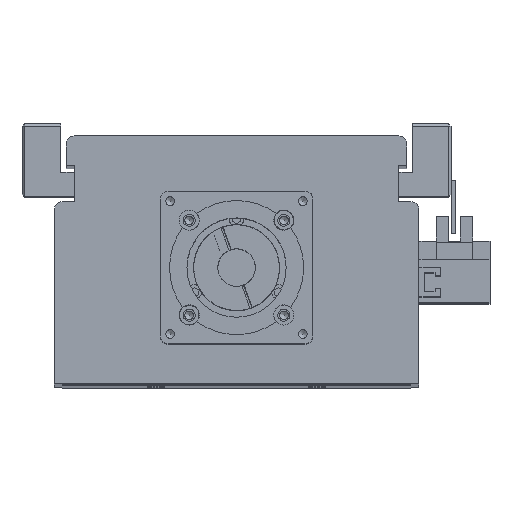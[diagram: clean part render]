
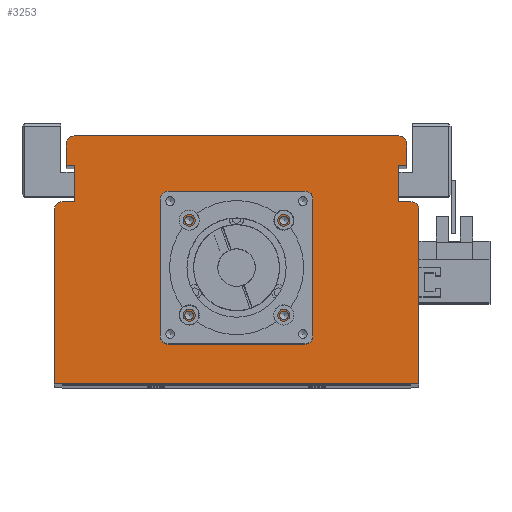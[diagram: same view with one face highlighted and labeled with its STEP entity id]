
A CAD part, top view. The second image highlights one B-rep face of the part: STEP entity #3253.
In plain terms, the highlighted planar face has unit normal (0, 0, 1).
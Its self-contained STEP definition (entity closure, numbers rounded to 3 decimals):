
#1811=CARTESIAN_POINT('',(19.321,61.5,645.0));
#1812=VERTEX_POINT('',#1811);
#1813=CARTESIAN_POINT('',(17.7,61.5,645.0));
#1814=DIRECTION('',(0.0,0.0,-1.0));
#1815=DIRECTION('',(1.0,0.0,0.0));
#1816=AXIS2_PLACEMENT_3D('',#1813,#1814,#1815);
#1817=CIRCLE('',#1816,1.621);
#1818=EDGE_CURVE('',#1812,#1812,#1817,.T.);
#1890=CARTESIAN_POINT('',(19.321,26.1,645.0));
#1891=VERTEX_POINT('',#1890);
#1892=CARTESIAN_POINT('',(17.7,26.1,645.0));
#1893=DIRECTION('',(0.0,0.0,-1.0));
#1894=DIRECTION('',(1.0,0.0,0.0));
#1895=AXIS2_PLACEMENT_3D('',#1892,#1893,#1894);
#1896=CIRCLE('',#1895,1.621);
#1897=EDGE_CURVE('',#1891,#1891,#1896,.T.);
#1969=CARTESIAN_POINT('',(-16.079,26.1,645.0));
#1970=VERTEX_POINT('',#1969);
#1971=CARTESIAN_POINT('',(-17.7,26.1,645.0));
#1972=DIRECTION('',(0.0,0.0,-1.0));
#1973=DIRECTION('',(1.0,0.0,0.0));
#1974=AXIS2_PLACEMENT_3D('',#1971,#1972,#1973);
#1975=CIRCLE('',#1974,1.621);
#1976=EDGE_CURVE('',#1970,#1970,#1975,.T.);
#2048=CARTESIAN_POINT('',(-16.079,61.5,645.0));
#2049=VERTEX_POINT('',#2048);
#2050=CARTESIAN_POINT('',(-17.7,61.5,645.0));
#2051=DIRECTION('',(0.0,0.0,-1.0));
#2052=DIRECTION('',(1.0,0.0,0.0));
#2053=AXIS2_PLACEMENT_3D('',#2050,#2051,#2052);
#2054=CIRCLE('',#2053,1.621);
#2055=EDGE_CURVE('',#2049,#2049,#2054,.T.);
#2089=CARTESIAN_POINT('',(26.5,43.8,645.0));
#2090=VERTEX_POINT('',#2089);
#2091=CARTESIAN_POINT('',(24.5,43.8,645.0));
#2092=DIRECTION('',(0.0,0.0,-1.0));
#2093=DIRECTION('',(1.0,0.0,0.0));
#2094=AXIS2_PLACEMENT_3D('',#2091,#2092,#2093);
#2095=CIRCLE('',#2094,2.0);
#2096=EDGE_CURVE('',#2090,#2090,#2095,.T.);
#2138=CARTESIAN_POINT('',(-22.5,43.8,645.0));
#2139=VERTEX_POINT('',#2138);
#2140=CARTESIAN_POINT('',(-24.5,43.8,645.0));
#2141=DIRECTION('',(0.0,0.0,-1.0));
#2142=DIRECTION('',(1.0,0.0,0.0));
#2143=AXIS2_PLACEMENT_3D('',#2140,#2141,#2142);
#2144=CIRCLE('',#2143,2.0);
#2145=EDGE_CURVE('',#2139,#2139,#2144,.T.);
#3069=CARTESIAN_POINT('',(21.05,43.8,645.0));
#3070=VERTEX_POINT('',#3069);
#3071=CARTESIAN_POINT('',(0.0,43.8,645.0));
#3072=DIRECTION('',(0.0,0.0,-1.0));
#3073=DIRECTION('',(-1.0,0.0,0.0));
#3074=AXIS2_PLACEMENT_3D('',#3071,#3072,#3073);
#3075=CIRCLE('',#3074,21.05);
#3076=EDGE_CURVE('',#3070,#3070,#3075,.T.);
#3093=CARTESIAN_POINT('',(0.,29.533,645.0));
#3094=DIRECTION('',(0.0,0.0,1.0));
#3095=DIRECTION('',(1.0,0.0,0.0));
#3096=AXIS2_PLACEMENT_3D('',#3093,#3094,#3095);
#3097=PLANE('',#3096);
#3098=CARTESIAN_POINT('',(-65.,68.5,645.0));
#3099=VERTEX_POINT('',#3098);
#3100=CARTESIAN_POINT('',(-60.5,68.5,645.0));
#3101=VERTEX_POINT('',#3100);
#3102=CARTESIAN_POINT('',(-65.,68.5,645.0));
#3103=DIRECTION('',(1.0,0.0,0.0));
#3104=VECTOR('',#3103,4.5);
#3105=LINE('',#3102,#3104);
#3106=EDGE_CURVE('',#3099,#3101,#3105,.T.);
#3107=ORIENTED_EDGE('',*,*,#3106,.F.);
#3108=CARTESIAN_POINT('',(-68.,65.5,645.0));
#3109=VERTEX_POINT('',#3108);
#3110=CARTESIAN_POINT('',(-65.,65.5,645.0));
#3111=DIRECTION('',(0.0,0.0,-1.0));
#3112=DIRECTION('',(0.0,1.0,0.0));
#3113=AXIS2_PLACEMENT_3D('',#3110,#3111,#3112);
#3114=CIRCLE('',#3113,3.);
#3115=EDGE_CURVE('',#3109,#3099,#3114,.T.);
#3116=ORIENTED_EDGE('',*,*,#3115,.F.);
#3117=CARTESIAN_POINT('',(-68.0,0.5,645.0));
#3118=VERTEX_POINT('',#3117);
#3119=CARTESIAN_POINT('',(-68.0,0.5,645.0));
#3120=DIRECTION('',(0.0,1.0,0.0));
#3121=VECTOR('',#3120,65.0);
#3122=LINE('',#3119,#3121);
#3123=EDGE_CURVE('',#3118,#3109,#3122,.T.);
#3124=ORIENTED_EDGE('',*,*,#3123,.F.);
#3125=CARTESIAN_POINT('',(68.0,0.5,645.0));
#3126=VERTEX_POINT('',#3125);
#3127=CARTESIAN_POINT('',(68.0,0.5,645.0));
#3128=DIRECTION('',(-1.0,0.0,0.0));
#3129=VECTOR('',#3128,136.0);
#3130=LINE('',#3127,#3129);
#3131=EDGE_CURVE('',#3126,#3118,#3130,.T.);
#3132=ORIENTED_EDGE('',*,*,#3131,.F.);
#3133=CARTESIAN_POINT('',(68.0,65.5,645.0));
#3134=VERTEX_POINT('',#3133);
#3135=CARTESIAN_POINT('',(68.0,65.5,645.0));
#3136=DIRECTION('',(0.0,-1.0,0.0));
#3137=VECTOR('',#3136,65.0);
#3138=LINE('',#3135,#3137);
#3139=EDGE_CURVE('',#3134,#3126,#3138,.T.);
#3140=ORIENTED_EDGE('',*,*,#3139,.F.);
#3141=CARTESIAN_POINT('',(65.,68.5,645.0));
#3142=VERTEX_POINT('',#3141);
#3143=CARTESIAN_POINT('',(65.,65.5,645.0));
#3144=DIRECTION('',(0.0,0.0,-1.0));
#3145=DIRECTION('',(1.0,0.0,0.0));
#3146=AXIS2_PLACEMENT_3D('',#3143,#3144,#3145);
#3147=CIRCLE('',#3146,3.);
#3148=EDGE_CURVE('',#3142,#3134,#3147,.T.);
#3149=ORIENTED_EDGE('',*,*,#3148,.F.);
#3150=CARTESIAN_POINT('',(60.5,68.5,645.0));
#3151=VERTEX_POINT('',#3150);
#3152=CARTESIAN_POINT('',(60.5,68.5,645.0));
#3153=DIRECTION('',(1.0,0.0,0.0));
#3154=VECTOR('',#3153,4.5);
#3155=LINE('',#3152,#3154);
#3156=EDGE_CURVE('',#3151,#3142,#3155,.T.);
#3157=ORIENTED_EDGE('',*,*,#3156,.F.);
#3158=CARTESIAN_POINT('',(60.5,82.,645.));
#3159=VERTEX_POINT('',#3158);
#3160=CARTESIAN_POINT('',(60.5,82.,645.));
#3161=DIRECTION('',(0.0,-1.0,0.0));
#3162=VECTOR('',#3161,13.5);
#3163=LINE('',#3160,#3162);
#3164=EDGE_CURVE('',#3159,#3151,#3163,.T.);
#3165=ORIENTED_EDGE('',*,*,#3164,.F.);
#3166=CARTESIAN_POINT('',(63.5,82.,645.));
#3167=VERTEX_POINT('',#3166);
#3168=CARTESIAN_POINT('',(63.5,82.,645.));
#3169=DIRECTION('',(-1.0,0.0,0.0));
#3170=VECTOR('',#3169,3.0);
#3171=LINE('',#3168,#3170);
#3172=EDGE_CURVE('',#3167,#3159,#3171,.T.);
#3173=ORIENTED_EDGE('',*,*,#3172,.F.);
#3174=CARTESIAN_POINT('',(63.5,90.0,645.));
#3175=VERTEX_POINT('',#3174);
#3176=CARTESIAN_POINT('',(63.5,90.0,645.));
#3177=DIRECTION('',(0.0,-1.0,0.0));
#3178=VECTOR('',#3177,8.);
#3179=LINE('',#3176,#3178);
#3180=EDGE_CURVE('',#3175,#3167,#3179,.T.);
#3181=ORIENTED_EDGE('',*,*,#3180,.F.);
#3182=CARTESIAN_POINT('',(60.5,93.,645.));
#3183=VERTEX_POINT('',#3182);
#3184=CARTESIAN_POINT('',(60.5,90.0,645.0));
#3185=DIRECTION('',(0.0,0.0,-1.0));
#3186=DIRECTION('',(1.0,0.0,0.0));
#3187=AXIS2_PLACEMENT_3D('',#3184,#3185,#3186);
#3188=CIRCLE('',#3187,3.);
#3189=EDGE_CURVE('',#3183,#3175,#3188,.T.);
#3190=ORIENTED_EDGE('',*,*,#3189,.F.);
#3191=CARTESIAN_POINT('',(-60.5,93.0,645.));
#3192=VERTEX_POINT('',#3191);
#3193=CARTESIAN_POINT('',(-60.5,93.0,645.));
#3194=DIRECTION('',(1.0,0.0,0.0));
#3195=VECTOR('',#3194,121.0);
#3196=LINE('',#3193,#3195);
#3197=EDGE_CURVE('',#3192,#3183,#3196,.T.);
#3198=ORIENTED_EDGE('',*,*,#3197,.F.);
#3199=CARTESIAN_POINT('',(-63.5,90.0,645.));
#3200=VERTEX_POINT('',#3199);
#3201=CARTESIAN_POINT('',(-60.5,90.0,645.0));
#3202=DIRECTION('',(0.0,0.0,-1.0));
#3203=DIRECTION('',(0.0,1.0,0.0));
#3204=AXIS2_PLACEMENT_3D('',#3201,#3202,#3203);
#3205=CIRCLE('',#3204,3.);
#3206=EDGE_CURVE('',#3200,#3192,#3205,.T.);
#3207=ORIENTED_EDGE('',*,*,#3206,.F.);
#3208=CARTESIAN_POINT('',(-63.5,82.,645.));
#3209=VERTEX_POINT('',#3208);
#3210=CARTESIAN_POINT('',(-63.5,82.,645.));
#3211=DIRECTION('',(0.0,1.0,0.0));
#3212=VECTOR('',#3211,8.);
#3213=LINE('',#3210,#3212);
#3214=EDGE_CURVE('',#3209,#3200,#3213,.T.);
#3215=ORIENTED_EDGE('',*,*,#3214,.F.);
#3216=CARTESIAN_POINT('',(-60.5,82.,645.));
#3217=VERTEX_POINT('',#3216);
#3218=CARTESIAN_POINT('',(-60.5,82.,645.));
#3219=DIRECTION('',(-1.0,0.0,0.0));
#3220=VECTOR('',#3219,3.);
#3221=LINE('',#3218,#3220);
#3222=EDGE_CURVE('',#3217,#3209,#3221,.T.);
#3223=ORIENTED_EDGE('',*,*,#3222,.F.);
#3224=CARTESIAN_POINT('',(-60.5,68.5,645.0));
#3225=DIRECTION('',(0.0,1.0,0.0));
#3226=VECTOR('',#3225,13.5);
#3227=LINE('',#3224,#3226);
#3228=EDGE_CURVE('',#3101,#3217,#3227,.T.);
#3229=ORIENTED_EDGE('',*,*,#3228,.F.);
#3230=EDGE_LOOP('',(#3107,#3116,#3124,#3132,#3140,#3149,#3157,#3165,#3173,#3181,#3190,#3198,#3207,#3215,#3223,#3229));
#3231=FACE_OUTER_BOUND('',#3230,.T.);
#3232=ORIENTED_EDGE('',*,*,#1818,.T.);
#3233=EDGE_LOOP('',(#3232));
#3234=FACE_BOUND('',#3233,.T.);
#3235=ORIENTED_EDGE('',*,*,#1897,.T.);
#3236=EDGE_LOOP('',(#3235));
#3237=FACE_BOUND('',#3236,.T.);
#3238=ORIENTED_EDGE('',*,*,#1976,.T.);
#3239=EDGE_LOOP('',(#3238));
#3240=FACE_BOUND('',#3239,.T.);
#3241=ORIENTED_EDGE('',*,*,#2055,.T.);
#3242=EDGE_LOOP('',(#3241));
#3243=FACE_BOUND('',#3242,.T.);
#3244=ORIENTED_EDGE('',*,*,#2096,.T.);
#3245=EDGE_LOOP('',(#3244));
#3246=FACE_BOUND('',#3245,.T.);
#3247=ORIENTED_EDGE('',*,*,#2145,.T.);
#3248=EDGE_LOOP('',(#3247));
#3249=FACE_BOUND('',#3248,.T.);
#3250=ORIENTED_EDGE('',*,*,#3076,.T.);
#3251=EDGE_LOOP('',(#3250));
#3252=FACE_BOUND('',#3251,.T.);
#3253=ADVANCED_FACE('',(#3231,#3234,#3237,#3240,#3243,#3246,#3249,#3252),#3097,.T.);
